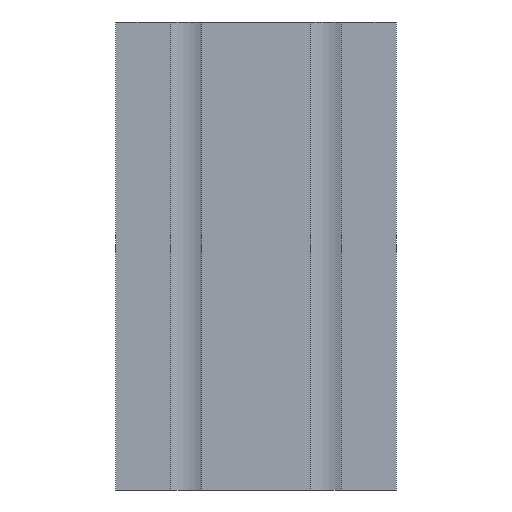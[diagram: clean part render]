
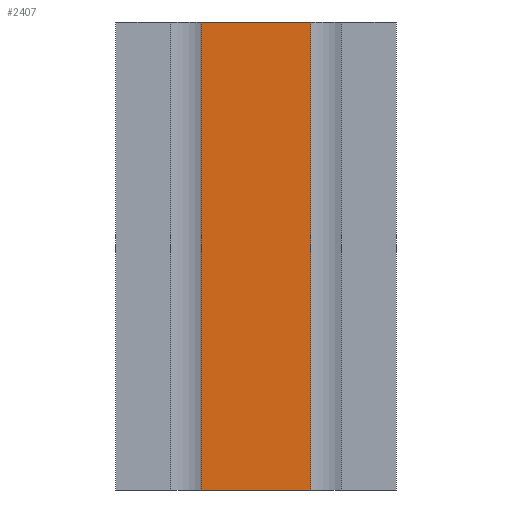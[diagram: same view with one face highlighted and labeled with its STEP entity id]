
A CAD part, left-side view. The second image highlights one B-rep face of the part: STEP entity #2407.
In plain terms, the highlighted planar face has unit normal (-1, 0, 0).
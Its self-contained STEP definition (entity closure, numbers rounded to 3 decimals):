
#90=PLANE('',#2638);
#207=FACE_OUTER_BOUND('',#336,.T.);
#336=EDGE_LOOP('',(#2071,#2072,#2073,#2074));
#474=LINE('',#3732,#731);
#588=LINE('',#3977,#845);
#589=LINE('',#3980,#846);
#590=LINE('',#3981,#847);
#731=VECTOR('',#3030,23.5);
#845=VECTOR('',#3268,100.);
#846=VECTOR('',#3271,23.5);
#847=VECTOR('',#3272,100.);
#1119=VERTEX_POINT('',#3729);
#1120=VERTEX_POINT('',#3731);
#1189=VERTEX_POINT('',#3975);
#1190=VERTEX_POINT('',#3979);
#1399=EDGE_CURVE('',#1120,#1119,#474,.T.);
#1522=EDGE_CURVE('',#1119,#1189,#588,.T.);
#1523=EDGE_CURVE('',#1189,#1190,#589,.T.);
#1524=EDGE_CURVE('',#1120,#1190,#590,.T.);
#2071=ORIENTED_EDGE('',*,*,#1523,.T.);
#2072=ORIENTED_EDGE('',*,*,#1524,.F.);
#2073=ORIENTED_EDGE('',*,*,#1399,.T.);
#2074=ORIENTED_EDGE('',*,*,#1522,.T.);
#2407=ADVANCED_FACE('',(#207),#90,.T.);
#2638=AXIS2_PLACEMENT_3D('',#3978,#3269,#3270);
#3030=DIRECTION('',(0.,-1.,0.));
#3268=DIRECTION('',(0.,0.,1.));
#3269=DIRECTION('center_axis',(-1.,0.,0.));
#3270=DIRECTION('ref_axis',(0.,0.,1.));
#3271=DIRECTION('',(0.,1.,0.));
#3272=DIRECTION('',(0.,0.,1.));
#3729=CARTESIAN_POINT('',(-30.,-11.75,-50.));
#3731=CARTESIAN_POINT('',(-30.,11.75,-50.));
#3732=CARTESIAN_POINT('',(-30.,11.75,-50.));
#3975=CARTESIAN_POINT('',(-30.,-11.75,50.));
#3977=CARTESIAN_POINT('',(-30.,-11.75,-50.));
#3978=CARTESIAN_POINT('Origin',(-30.,-11.75,0.));
#3979=CARTESIAN_POINT('',(-30.,11.75,50.));
#3980=CARTESIAN_POINT('',(-30.,-11.75,50.));
#3981=CARTESIAN_POINT('',(-30.,11.75,-50.));
